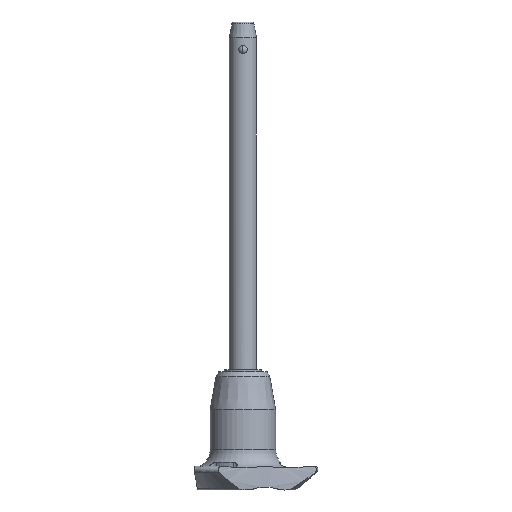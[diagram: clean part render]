
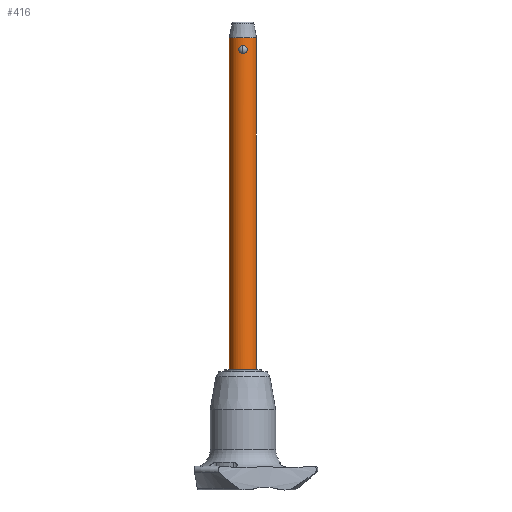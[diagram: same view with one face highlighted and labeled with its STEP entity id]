
A CAD part, front view. The second image highlights one B-rep face of the part: STEP entity #416.
In plain terms, the highlighted cylindrical face has radius 3 mm (diameter 6 mm), a partial arc.
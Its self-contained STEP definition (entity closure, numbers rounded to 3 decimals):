
#3 = CARTESIAN_POINT ( 'NONE',  ( 0., -3., 0. ) ) ;
#108 = CARTESIAN_POINT ( 'NONE',  ( 0.238, -2.993, 0.021 ) ) ;
#110 = EDGE_CURVE ( 'NONE', #2341, #1180, #939, .T. ) ;
#113 = CARTESIAN_POINT ( 'NONE',  ( 3., 0., 3.5 ) ) ;
#151 = CARTESIAN_POINT ( 'NONE',  ( -0.461, -2.967, 1.63 ) ) ;
#165 = VERTEX_POINT ( 'NONE', #421 ) ;
#209 = EDGE_LOOP ( 'NONE', ( #323, #1951 ) ) ;
#244 = VECTOR ( 'NONE', #1124, 1000. ) ;
#323 = ORIENTED_EDGE ( 'NONE', *, *, #110, .F. ) ;
#338 = AXIS2_PLACEMENT_3D ( 'NONE', #2570, #1981, #936 ) ;
#353 = DIRECTION ( 'NONE',  ( 0., 0., 1. ) ) ;
#360 = AXIS2_PLACEMENT_3D ( 'NONE', #390, #1242, #799 ) ;
#390 = CARTESIAN_POINT ( 'NONE',  ( 0., 0., -70. ) ) ;
#405 = CARTESIAN_POINT ( 'NONE',  ( 0., -3., 1.732 ) ) ;
#416 = ADVANCED_FACE ( 'NONE', ( #1457, #2521 ), #1915, .T. ) ;
#421 = CARTESIAN_POINT ( 'NONE',  ( -3., 0., -70. ) ) ;
#440 = ORIENTED_EDGE ( 'NONE', *, *, #2678, .F. ) ;
#521 = CARTESIAN_POINT ( 'NONE',  ( 0.74, -2.909, 1.414 ) ) ;
#533 = CARTESIAN_POINT ( 'NONE',  ( 0.118, -3., 0. ) ) ;
#537 = CARTESIAN_POINT ( 'NONE',  ( 0., -3., 1.732 ) ) ;
#680 = CARTESIAN_POINT ( 'NONE',  ( -0.46, -2.967, 0.101 ) ) ;
#685 = EDGE_LOOP ( 'NONE', ( #440, #1122, #1346, #1760 ) ) ;
#722 = CARTESIAN_POINT ( 'NONE',  ( 0.812, -2.888, 1.317 ) ) ;
#730 = AXIS2_PLACEMENT_3D ( 'NONE', #1256, #1664, #2314 ) ;
#749 = CARTESIAN_POINT ( 'NONE',  ( 0.937, -2.85, 0.744 ) ) ;
#778 = VECTOR ( 'NONE', #353, 1000. ) ;
#783 = CARTESIAN_POINT ( 'NONE',  ( -0.91, -2.859, 1.105 ) ) ;
#799 = DIRECTION ( 'NONE',  ( 1., 0., 0. ) ) ;
#839 = CARTESIAN_POINT ( 'NONE',  ( 0.12, -3., 1.732 ) ) ;
#862 = CARTESIAN_POINT ( 'NONE',  ( -0.937, -2.85, 0.986 ) ) ;
#891 = CARTESIAN_POINT ( 'NONE',  ( 0., -3., 0. ) ) ;
#932 = CARTESIAN_POINT ( 'NONE',  ( 0.738, -2.909, 0.317 ) ) ;
#936 = DIRECTION ( 'NONE',  ( 1., 0., 0. ) ) ;
#939 = B_SPLINE_CURVE_WITH_KNOTS ( 'NONE', 3,
 ( #405, #1203, #2036, #151, #994, #1836, #2660, #783, #862, #2555, #1320, #1703, #1685, #2335, #680, #1523, #1938, #891 ),
 .UNSPECIFIED., .F., .F.,
 ( 4, 2, 2, 2, 2, 2, 2, 2, 4 ),
 ( 0., 0., 0.001, 0.001, 0.001, 0.002, 0.002, 0.002, 0.003 ),
 .UNSPECIFIED. ) ;
#945 = CARTESIAN_POINT ( 'NONE',  ( 0.238, -2.993, 1.712 ) ) ;
#994 = CARTESIAN_POINT ( 'NONE',  ( -0.563, -2.948, 1.57 ) ) ;
#1001 = B_SPLINE_CURVE_WITH_KNOTS ( 'NONE', 3,
 ( #1805, #533, #108, #1108, #1347, #932, #2629, #1390, #749, #1946, #2183, #722, #521, #1364, #2198, #945, #839, #1748 ),
 .UNSPECIFIED., .F., .F.,
 ( 4, 2, 2, 2, 2, 2, 2, 2, 4 ),
 ( 0.003, 0.003, 0.004, 0.004, 0.004, 0.005, 0.005, 0.005, 0.006 ),
 .UNSPECIFIED. ) ;
#1108 = CARTESIAN_POINT ( 'NONE',  ( 0.459, -2.967, 0.101 ) ) ;
#1122 = ORIENTED_EDGE ( 'NONE', *, *, #2134, .F. ) ;
#1124 = DIRECTION ( 'NONE',  ( 0., 0., 1. ) ) ;
#1170 = CARTESIAN_POINT ( 'NONE',  ( -3., 0., -70. ) ) ;
#1180 = VERTEX_POINT ( 'NONE', #3 ) ;
#1183 = LINE ( 'NONE', #1170, #778 ) ;
#1203 = CARTESIAN_POINT ( 'NONE',  ( -0.12, -3., 1.732 ) ) ;
#1242 = DIRECTION ( 'NONE',  ( 0., 0., 1. ) ) ;
#1256 = CARTESIAN_POINT ( 'NONE',  ( 0., 0., 3.5 ) ) ;
#1320 = CARTESIAN_POINT ( 'NONE',  ( -0.911, -2.859, 0.63 ) ) ;
#1334 = CARTESIAN_POINT ( 'NONE',  ( -3., 0., 3.5 ) ) ;
#1346 = ORIENTED_EDGE ( 'NONE', *, *, #2560, .T. ) ;
#1347 = CARTESIAN_POINT ( 'NONE',  ( 0.563, -2.948, 0.162 ) ) ;
#1364 = CARTESIAN_POINT ( 'NONE',  ( 0.564, -2.948, 1.57 ) ) ;
#1390 = CARTESIAN_POINT ( 'NONE',  ( 0.91, -2.859, 0.626 ) ) ;
#1457 = FACE_OUTER_BOUND ( 'NONE', #685, .T. ) ;
#1509 = VERTEX_POINT ( 'NONE', #113 ) ;
#1523 = CARTESIAN_POINT ( 'NONE',  ( -0.238, -2.993, 0.021 ) ) ;
#1664 = DIRECTION ( 'NONE',  ( 0., 0., -1. ) ) ;
#1685 = CARTESIAN_POINT ( 'NONE',  ( -0.74, -2.909, 0.318 ) ) ;
#1703 = CARTESIAN_POINT ( 'NONE',  ( -0.812, -2.889, 0.414 ) ) ;
#1710 = CARTESIAN_POINT ( 'NONE',  ( 3., 0., -70. ) ) ;
#1748 = CARTESIAN_POINT ( 'NONE',  ( 0., -3., 1.732 ) ) ;
#1760 = ORIENTED_EDGE ( 'NONE', *, *, #1928, .T. ) ;
#1784 = VERTEX_POINT ( 'NONE', #1334 ) ;
#1805 = CARTESIAN_POINT ( 'NONE',  ( 0., -3., 0. ) ) ;
#1836 = CARTESIAN_POINT ( 'NONE',  ( -0.739, -2.909, 1.414 ) ) ;
#1915 = CYLINDRICAL_SURFACE ( 'NONE', #360, 3. ) ;
#1928 = EDGE_CURVE ( 'NONE', #1509, #1784, #2130, .T. ) ;
#1938 = CARTESIAN_POINT ( 'NONE',  ( -0.118, -3., 0. ) ) ;
#1946 = CARTESIAN_POINT ( 'NONE',  ( 0.937, -2.85, 0.985 ) ) ;
#1951 = ORIENTED_EDGE ( 'NONE', *, *, #2115, .F. ) ;
#1981 = DIRECTION ( 'NONE',  ( 0., 0., -1. ) ) ;
#2024 = VERTEX_POINT ( 'NONE', #2136 ) ;
#2036 = CARTESIAN_POINT ( 'NONE',  ( -0.238, -2.993, 1.712 ) ) ;
#2115 = EDGE_CURVE ( 'NONE', #1180, #2341, #1001, .T. ) ;
#2130 = CIRCLE ( 'NONE', #730, 3. ) ;
#2134 = EDGE_CURVE ( 'NONE', #2024, #165, #2691, .T. ) ;
#2136 = CARTESIAN_POINT ( 'NONE',  ( 3., 0., -70. ) ) ;
#2183 = CARTESIAN_POINT ( 'NONE',  ( 0.911, -2.859, 1.103 ) ) ;
#2184 = LINE ( 'NONE', #1710, #244 ) ;
#2198 = CARTESIAN_POINT ( 'NONE',  ( 0.461, -2.966, 1.63 ) ) ;
#2314 = DIRECTION ( 'NONE',  ( 1., 0., 0. ) ) ;
#2335 = CARTESIAN_POINT ( 'NONE',  ( -0.564, -2.948, 0.162 ) ) ;
#2341 = VERTEX_POINT ( 'NONE', #537 ) ;
#2521 = FACE_BOUND ( 'NONE', #209, .T. ) ;
#2555 = CARTESIAN_POINT ( 'NONE',  ( -0.937, -2.85, 0.749 ) ) ;
#2560 = EDGE_CURVE ( 'NONE', #2024, #1509, #2184, .T. ) ;
#2570 = CARTESIAN_POINT ( 'NONE',  ( 0., 0., -70. ) ) ;
#2629 = CARTESIAN_POINT ( 'NONE',  ( 0.811, -2.889, 0.412 ) ) ;
#2660 = CARTESIAN_POINT ( 'NONE',  ( -0.811, -2.889, 1.319 ) ) ;
#2678 = EDGE_CURVE ( 'NONE', #165, #1784, #1183, .T. ) ;
#2691 = CIRCLE ( 'NONE', #338, 3. ) ;
